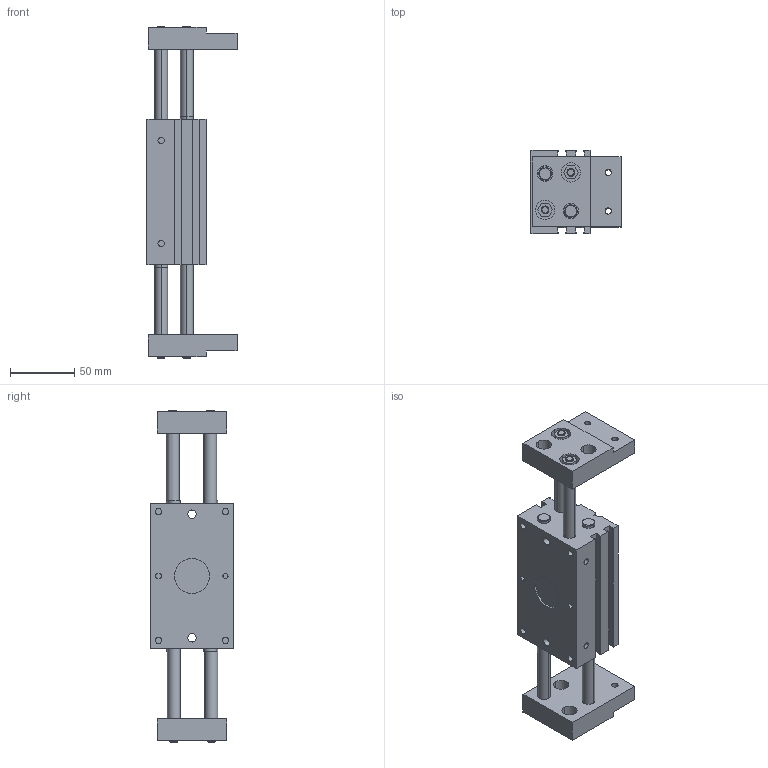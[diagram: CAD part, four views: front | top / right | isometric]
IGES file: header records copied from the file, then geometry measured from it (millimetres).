
Global section: file name: No Iges File Name specified; native system: AutoDesk Inventor R11.0; preprocessor: AutoDesk Inventor Iges Exporter R11.0; author: No Author specified; organization: No Organization specified; date: 20070224.105453; units: millimetre
Bounding box: 70 x 65 x 258 mm (x, y, z)
Volume: 436599.2 mm3; surface area: 102908.9 mm2
Topology: 3 solids, 3 shells, 203 faces, 494 edges, 324 vertices
Faces by surface type: plane 101, bspline 56, cylinder 16, cone 16, revolution 14
